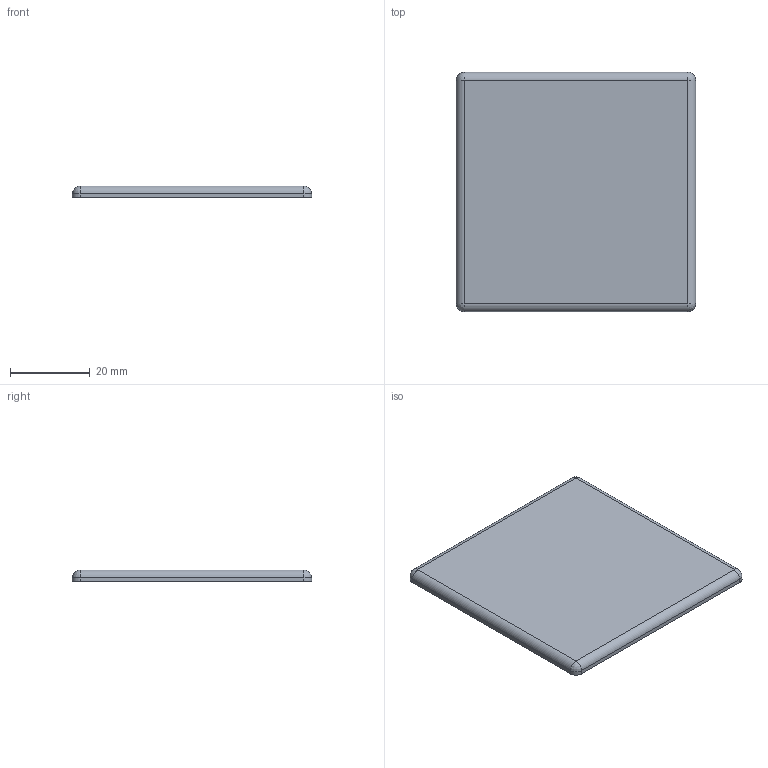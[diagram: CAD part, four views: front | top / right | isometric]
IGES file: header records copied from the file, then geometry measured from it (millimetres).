
Start section: SolidWorks IGES file using analytic representation for surfaces
Global section: file name: C:\Documents and Settings\Administrator\デスクトップ\指定保存後3回目\SolidWorks\SF\SF30\Parts\SFA-011.IGS; native system: SolidWorks 2006 by SolidWorks Corporation; preprocessor: SolidWorks 2006 by SolidWorks Corporation; author: Administrator; date: 061213.104428; units: millimetre
Bounding box: 60 x 60 x 3 mm (x, y, z)
Surface area: 7698 mm2 (no closed solid volume)
Topology: 0 solids, 0 shells, 18 faces, 140 edges, 172 vertices
Faces by surface type: revolution 12, bspline 6
